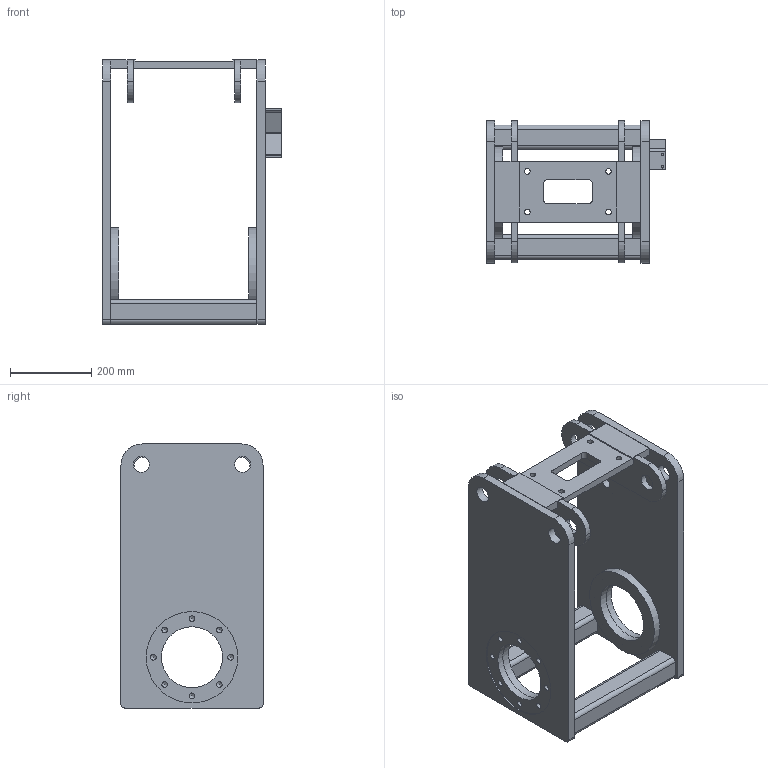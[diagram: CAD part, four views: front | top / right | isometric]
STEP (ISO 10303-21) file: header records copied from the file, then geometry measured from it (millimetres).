
FILE_DESCRIPTION((''),'2;1');
FILE_NAME('C:\Users\User\Desktop\Mastercam-harjoitukset\Mastercam_Mill_14\kehto_kp.stp','2020-05-19T00:00:19',(''),(''),'STEP Write','Mastercam 2020 ... CNC Software, Inc.','');
FILE_SCHEMA(('AUTOMOTIVE_DESIGN'));
Length unit declared in the file: millimetre
Products named in the file (1): None
Bounding box: 440 x 350 x 650 mm (x, y, z)
Volume: 11245882 mm3; surface area: 1684688.4 mm2
Topology: 10 solids, 10 shells, 543 faces, 1421 edges, 943 vertices
Faces by surface type: plane 296, cylinder 122, bspline 105, cone 20
Full cylindrical faces by diameter (mm): 6.8 x12, 14 x36, 25 x1, 40 x8, 150 x4, 225 x4
Entity records: 17339 total; most frequent: CARTESIAN_POINT 4207, ORIENTED_EDGE 2618, DIRECTION 2223, EDGE_CURVE 1309, VERTEX_POINT 916, VECTOR 855, LINE 855, EDGE_LOOP 761
